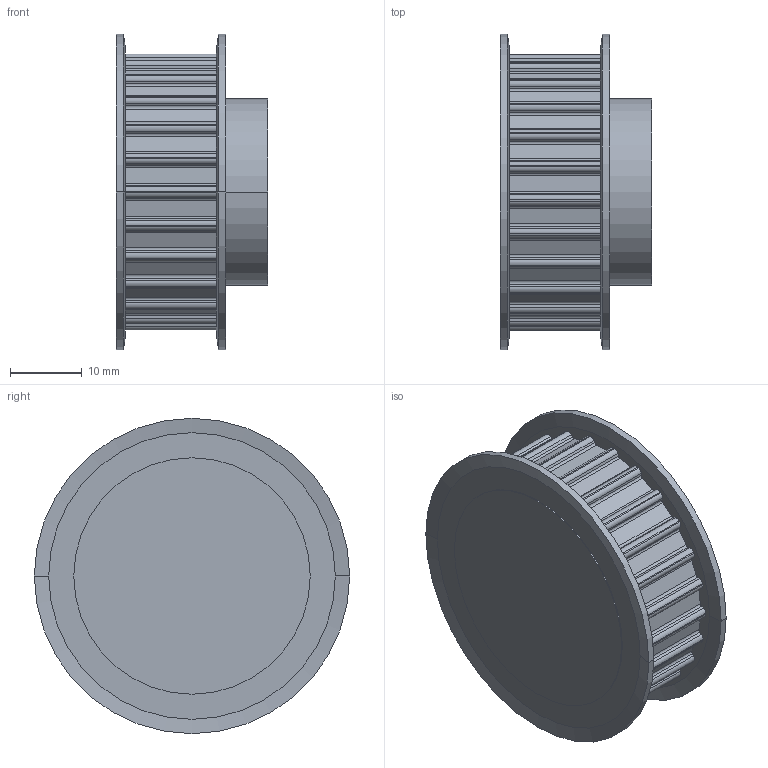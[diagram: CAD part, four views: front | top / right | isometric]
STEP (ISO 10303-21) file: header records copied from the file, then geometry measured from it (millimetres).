
FILE_DESCRIPTION( ( '' ), '1' );
FILE_NAME( 'C:/Users/Stangenbergd/Documents/CAD_Step/1/16622500.stp', '2021-10-19T09:34:07', ( '' ), ( '' ), ' ', ' ', ' ' );
FILE_SCHEMA( ( 'CONFIG_CONTROL_DESIGN' ) );
Length unit declared in the file: millimetre
Products named in the file (1): 1
Bounding box: 21.13 x 44 x 44 mm (x, y, z)
Volume: 20211.4 mm3; surface area: 6556 mm2
Topology: 1 solids, 1 shells, 226 faces, 649 edges, 430 vertices
Faces by surface type: cylinder 136, plane 82, cone 8
Entity records: 7553 total; most frequent: DIRECTION 1383, CARTESIAN_POINT 1306, ORIENTED_EDGE 1298, EDGE_CURVE 649, AXIS2_PLACEMENT_3D 507, VERTEX_POINT 430, LINE 369, VECTOR 369
